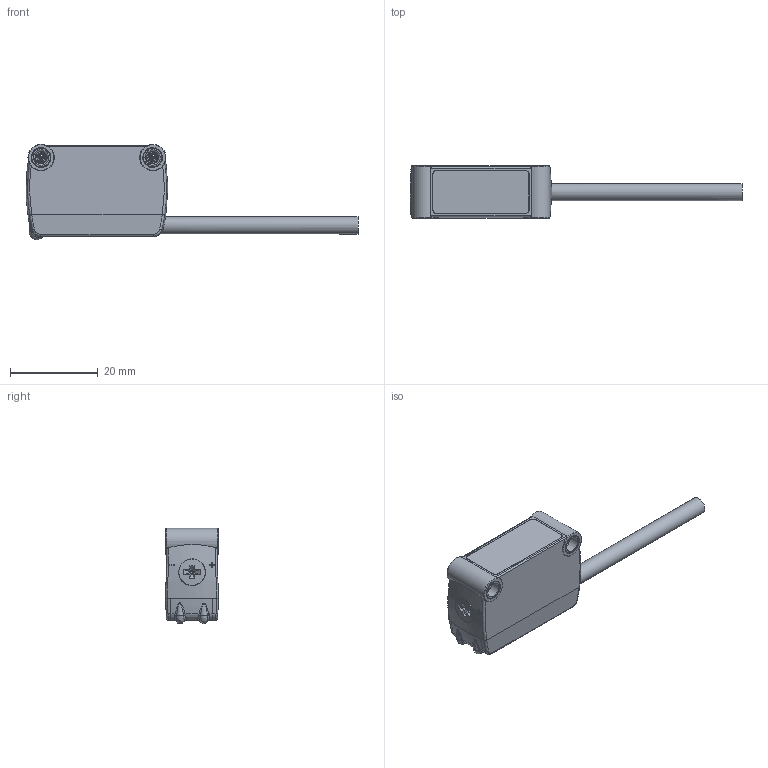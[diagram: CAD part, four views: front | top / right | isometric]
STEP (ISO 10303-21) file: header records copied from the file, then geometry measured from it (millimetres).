
FILE_DESCRIPTION(/* description */ (''),/* implementation_level */ '2;1');
FILE_NAME(/* name */ 'F:\HUAYIFENG\01)HUAYIFENG_宣传文件\01)HUAYIFENG_\X2\5BA34F2065874EF6\X0\_产品资料整合\03)产品3D文档\02)产品3D_光电系列_K12_2019\02-05)LS201-BG系列_3D\LS201-BG50_3D.stp',/* time_stamp */ '2019-07-06T16:28:13+08:00',/* author */ ('fengjiarun'),/* organization */ (''),/* preprocessor_version */ 'ST-DEVELOPER v16.5',/* originating_system */ 'Autodesk Inventor 2017',/* authorisation */ '');
FILE_SCHEMA (('AUTOMOTIVE_DESIGN { 1 0 10303 214 3 1 1 }'));
Length unit declared in the file: millimetre
Products named in the file (1): LS201-BG50_3D
Bounding box: 75.74 x 12 x 21.74 mm (x, y, z)
Volume: 7930.7 mm3; surface area: 3576.5 mm2
Topology: 1 solids, 1 shells, 233 faces, 931 edges, 710 vertices
Faces by surface type: bspline 74, cylinder 73, plane 73, torus 13
Full cylindrical faces by diameter (mm): 3.5 x38, 3.9 x1, 6 x3
Entity records: 25521 total; most frequent: CARTESIAN_POINT 18471, ORIENTED_EDGE 1580, DIRECTION 1420, EDGE_CURVE 790, AXIS2_PLACEMENT_3D 631, VERTEX_POINT 619, CIRCLE 479, EDGE_LOOP 221
